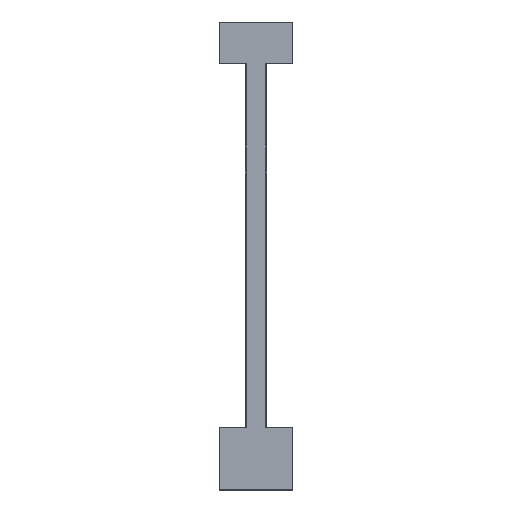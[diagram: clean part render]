
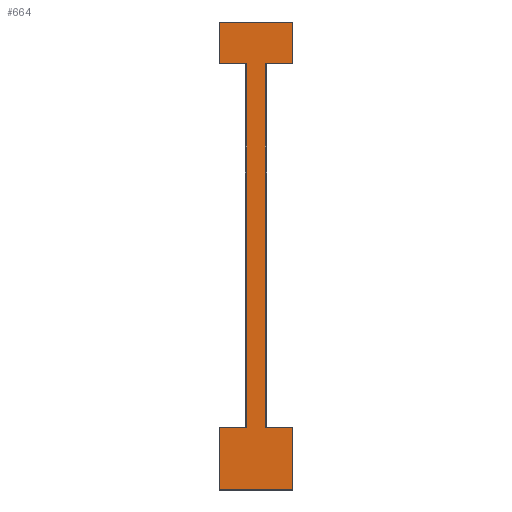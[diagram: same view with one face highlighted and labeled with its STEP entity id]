
A CAD part, top view. The second image highlights one B-rep face of the part: STEP entity #664.
In plain terms, the highlighted planar face has unit normal (0, 0, 1).
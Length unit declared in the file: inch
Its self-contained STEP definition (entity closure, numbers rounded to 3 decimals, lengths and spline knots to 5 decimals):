
#38=PLANE('',#732);
#76=FACE_OUTER_BOUND('',#114,.T.);
#114=EDGE_LOOP('',(#573,#574,#575,#576,#577,#578,#579,#580,#581,#582,#583,
#584,#585,#586,#587,#588,#589,#590,#591,#592));
#148=LINE('',#962,#232);
#164=LINE('',#1003,#248);
#167=LINE('',#1009,#251);
#170=LINE('',#1015,#254);
#187=LINE('',#1049,#271);
#189=LINE('',#1053,#273);
#192=LINE('',#1058,#276);
#194=LINE('',#1062,#278);
#195=LINE('',#1065,#279);
#197=LINE('',#1069,#281);
#199=LINE('',#1073,#283);
#200=LINE('',#1075,#284);
#201=LINE('',#1077,#285);
#202=LINE('',#1079,#286);
#203=LINE('',#1080,#287);
#204=LINE('',#1082,#288);
#205=LINE('',#1084,#289);
#206=LINE('',#1086,#290);
#207=LINE('',#1088,#291);
#208=LINE('',#1089,#292);
#232=VECTOR('',#786,0.3937);
#248=VECTOR('',#828,0.3937);
#251=VECTOR('',#833,0.3937);
#254=VECTOR('',#838,0.3937);
#271=VECTOR('',#859,0.3937);
#273=VECTOR('',#863,0.3937);
#276=VECTOR('',#868,0.3937);
#278=VECTOR('',#872,0.3937);
#279=VECTOR('',#875,0.3937);
#281=VECTOR('',#879,0.3937);
#283=VECTOR('',#883,0.3937);
#284=VECTOR('',#884,0.3937);
#285=VECTOR('',#885,0.3937);
#286=VECTOR('',#886,0.3937);
#287=VECTOR('',#887,0.3937);
#288=VECTOR('',#888,0.3937);
#289=VECTOR('',#889,0.3937);
#290=VECTOR('',#890,0.3937);
#291=VECTOR('',#891,0.3937);
#292=VECTOR('',#892,0.3937);
#310=VERTEX_POINT('',#947);
#311=VERTEX_POINT('',#951);
#322=VERTEX_POINT('',#988);
#323=VERTEX_POINT('',#992);
#326=VERTEX_POINT('',#1007);
#328=VERTEX_POINT('',#1013);
#343=VERTEX_POINT('',#1048);
#344=VERTEX_POINT('',#1052);
#345=VERTEX_POINT('',#1056);
#346=VERTEX_POINT('',#1060);
#347=VERTEX_POINT('',#1064);
#348=VERTEX_POINT('',#1068);
#349=VERTEX_POINT('',#1072);
#350=VERTEX_POINT('',#1074);
#351=VERTEX_POINT('',#1076);
#352=VERTEX_POINT('',#1078);
#353=VERTEX_POINT('',#1081);
#354=VERTEX_POINT('',#1083);
#355=VERTEX_POINT('',#1085);
#356=VERTEX_POINT('',#1087);
#376=EDGE_CURVE('',#310,#311,#148,.T.);
#396=EDGE_CURVE('',#322,#323,#164,.T.);
#399=EDGE_CURVE('',#311,#326,#167,.T.);
#402=EDGE_CURVE('',#326,#328,#170,.T.);
#419=EDGE_CURVE('',#343,#310,#187,.T.);
#421=EDGE_CURVE('',#344,#343,#189,.T.);
#424=EDGE_CURVE('',#323,#345,#192,.T.);
#426=EDGE_CURVE('',#345,#346,#194,.T.);
#427=EDGE_CURVE('',#347,#322,#195,.T.);
#429=EDGE_CURVE('',#348,#347,#197,.T.);
#431=EDGE_CURVE('',#328,#349,#199,.T.);
#432=EDGE_CURVE('',#350,#349,#200,.T.);
#433=EDGE_CURVE('',#351,#350,#201,.T.);
#434=EDGE_CURVE('',#352,#351,#202,.T.);
#435=EDGE_CURVE('',#348,#352,#203,.T.);
#436=EDGE_CURVE('',#346,#353,#204,.T.);
#437=EDGE_CURVE('',#354,#353,#205,.T.);
#438=EDGE_CURVE('',#355,#354,#206,.T.);
#439=EDGE_CURVE('',#356,#355,#207,.T.);
#440=EDGE_CURVE('',#344,#356,#208,.T.);
#573=ORIENTED_EDGE('',*,*,#431,.T.);
#574=ORIENTED_EDGE('',*,*,#432,.F.);
#575=ORIENTED_EDGE('',*,*,#433,.F.);
#576=ORIENTED_EDGE('',*,*,#434,.F.);
#577=ORIENTED_EDGE('',*,*,#435,.F.);
#578=ORIENTED_EDGE('',*,*,#429,.T.);
#579=ORIENTED_EDGE('',*,*,#427,.T.);
#580=ORIENTED_EDGE('',*,*,#396,.T.);
#581=ORIENTED_EDGE('',*,*,#424,.T.);
#582=ORIENTED_EDGE('',*,*,#426,.T.);
#583=ORIENTED_EDGE('',*,*,#436,.T.);
#584=ORIENTED_EDGE('',*,*,#437,.F.);
#585=ORIENTED_EDGE('',*,*,#438,.F.);
#586=ORIENTED_EDGE('',*,*,#439,.F.);
#587=ORIENTED_EDGE('',*,*,#440,.F.);
#588=ORIENTED_EDGE('',*,*,#421,.T.);
#589=ORIENTED_EDGE('',*,*,#419,.T.);
#590=ORIENTED_EDGE('',*,*,#376,.T.);
#591=ORIENTED_EDGE('',*,*,#399,.T.);
#592=ORIENTED_EDGE('',*,*,#402,.T.);
#664=ADVANCED_FACE('',(#76),#38,.T.);
#732=AXIS2_PLACEMENT_3D('',#1071,#881,#882);
#786=DIRECTION('',(0.,1.,0.));
#828=DIRECTION('',(0.,-1.,0.));
#833=DIRECTION('',(-1.,0.,0.));
#838=DIRECTION('',(0.,1.,0.));
#859=DIRECTION('',(1.,0.,0.));
#863=DIRECTION('',(0.,1.,0.));
#868=DIRECTION('',(1.,0.,0.));
#872=DIRECTION('',(0.,-1.,0.));
#875=DIRECTION('',(-1.,0.,0.));
#879=DIRECTION('',(0.,-1.,0.));
#881=DIRECTION('center_axis',(0.,0.,1.));
#882=DIRECTION('ref_axis',(1.,0.,0.));
#883=DIRECTION('',(1.,0.,0.));
#884=DIRECTION('',(0.,-1.,0.));
#885=DIRECTION('',(1.,0.,0.));
#886=DIRECTION('',(0.,1.,0.));
#887=DIRECTION('',(-1.,0.,0.));
#888=DIRECTION('',(-1.,0.,0.));
#889=DIRECTION('',(0.,1.,0.));
#890=DIRECTION('',(-1.,0.,0.));
#891=DIRECTION('',(0.,-1.,0.));
#892=DIRECTION('',(1.,0.,0.));
#947=CARTESIAN_POINT('',(0.2725,-4.9175,0.02));
#951=CARTESIAN_POINT('',(0.2725,5.5425,0.02));
#962=CARTESIAN_POINT('',(0.2725,2.78494,0.02));
#988=CARTESIAN_POINT('',(-0.2725,5.5425,0.02));
#992=CARTESIAN_POINT('',(-0.2725,-4.9175,0.02));
#1003=CARTESIAN_POINT('',(-0.2725,-2.44506,0.02));
#1007=CARTESIAN_POINT('',(0.2625,5.5425,0.02));
#1009=CARTESIAN_POINT('',(0.13125,5.5425,0.02));
#1013=CARTESIAN_POINT('',(0.2625,5.5625,0.02));
#1015=CARTESIAN_POINT('',(0.2625,2.79494,0.02));
#1048=CARTESIAN_POINT('',(0.2625,-4.9175,0.02));
#1049=CARTESIAN_POINT('',(0.15625,-4.9175,0.02));
#1052=CARTESIAN_POINT('',(0.2625,-4.9375,0.02));
#1053=CARTESIAN_POINT('',(0.2625,-2.44506,0.02));
#1056=CARTESIAN_POINT('',(-0.2625,-4.9175,0.02));
#1058=CARTESIAN_POINT('',(-0.13125,-4.9175,0.02));
#1060=CARTESIAN_POINT('',(-0.2625,-4.9375,0.02));
#1062=CARTESIAN_POINT('',(-0.2625,-2.45506,0.02));
#1064=CARTESIAN_POINT('',(-0.2625,5.5425,0.02));
#1065=CARTESIAN_POINT('',(-0.15625,5.5425,0.02));
#1068=CARTESIAN_POINT('',(-0.2625,5.5625,0.02));
#1069=CARTESIAN_POINT('',(-0.2625,2.78494,0.02));
#1071=CARTESIAN_POINT('Origin',(0.,0.02737,
0.02));
#1072=CARTESIAN_POINT('',(1.0625,5.5625,0.02));
#1073=CARTESIAN_POINT('',(0.15625,5.5625,0.02));
#1074=CARTESIAN_POINT('',(1.0625,6.75,0.02));
#1075=CARTESIAN_POINT('',(1.0625,5.5625,0.02));
#1076=CARTESIAN_POINT('',(-1.0625,6.75,0.02));
#1077=CARTESIAN_POINT('',(1.0625,6.75,0.02));
#1078=CARTESIAN_POINT('',(-1.0625,5.5625,0.02));
#1079=CARTESIAN_POINT('',(-1.0625,6.75,0.02));
#1080=CARTESIAN_POINT('',(-1.0625,5.5625,0.02));
#1081=CARTESIAN_POINT('',(-1.0625,-4.9375,0.02));
#1082=CARTESIAN_POINT('',(-0.15625,-4.9375,0.02));
#1083=CARTESIAN_POINT('',(-1.0625,-6.75,0.02));
#1084=CARTESIAN_POINT('',(-1.0625,-4.9375,0.02));
#1085=CARTESIAN_POINT('',(1.0625,-6.75,0.02));
#1086=CARTESIAN_POINT('',(-1.0625,-6.75,0.02));
#1087=CARTESIAN_POINT('',(1.0625,-4.9375,0.02));
#1088=CARTESIAN_POINT('',(1.0625,-6.75,0.02));
#1089=CARTESIAN_POINT('',(1.0625,-4.9375,0.02));
